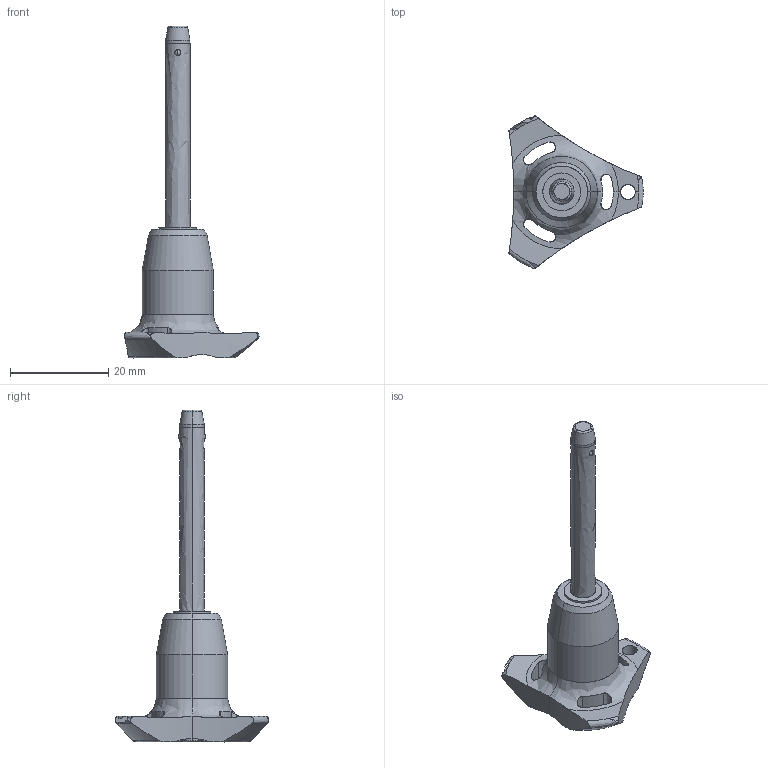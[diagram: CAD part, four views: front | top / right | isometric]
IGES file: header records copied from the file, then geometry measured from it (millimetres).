
Start section: SolidWorks IGES file using analytic representation for surfaces
Global section: file name: C:\Users\ianosborn\Desktop\QR1726_v2\QR1726_v2_20251115_IGES\QR1726.M05-035-T.igs; native system: SolidWorks 2019; preprocessor: SolidWorks 2019; author: IanOsborn; date: 251113.105934; units: millimetre
Bounding box: 27.4 x 31.31 x 67.7 mm (x, y, z)
Surface area: 3058.3 mm2 (no closed solid volume)
Topology: 0 solids, 0 shells, 69 faces, 1299 edges, 1280 vertices
Faces by surface type: revolution 52, bspline 17
